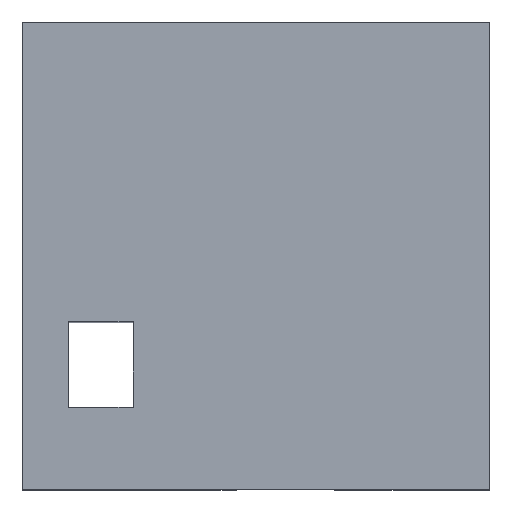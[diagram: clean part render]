
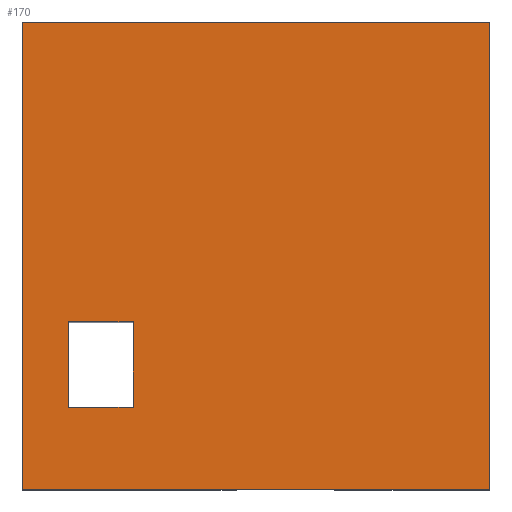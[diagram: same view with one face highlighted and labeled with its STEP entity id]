
A CAD part, top view. The second image highlights one B-rep face of the part: STEP entity #170.
In plain terms, the highlighted planar face has unit normal (0, 0, 1).
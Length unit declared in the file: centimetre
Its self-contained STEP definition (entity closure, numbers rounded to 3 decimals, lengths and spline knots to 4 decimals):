
#8 = VECTOR ( 'NONE', #466, 100. ) ;
#20 = DIRECTION ( 'NONE',  ( -1., 0., 0. ) ) ;
#21 = CARTESIAN_POINT ( 'NONE',  ( 237.1675, 358.1003, 1000. ) ) ;
#37 = ORIENTED_EDGE ( 'NONE', *, *, #371, .T. ) ;
#50 = CARTESIAN_POINT ( 'NONE',  ( 0., 0., 1000. ) ) ;
#53 = VECTOR ( 'NONE', #763, 100. ) ;
#60 = DIRECTION ( 'NONE',  ( 1., 0., 0. ) ) ;
#97 = ORIENTED_EDGE ( 'NONE', *, *, #441, .T. ) ;
#115 = CARTESIAN_POINT ( 'NONE',  ( 1000., 1000., 1000. ) ) ;
#143 = ORIENTED_EDGE ( 'NONE', *, *, #341, .T. ) ;
#165 = DIRECTION ( 'NONE',  ( 1., 0., 0. ) ) ;
#170 = ADVANCED_FACE ( 'NONE', ( #598, #301 ), #316, .T. ) ;
#177 = VECTOR ( 'NONE', #796, 100. ) ;
#182 = LINE ( 'NONE', #601, #8 ) ;
#196 = CARTESIAN_POINT ( 'NONE',  ( 1000., 0., 1000. ) ) ;
#199 = AXIS2_PLACEMENT_3D ( 'NONE', #524, #604, #165 ) ;
#225 = LINE ( 'NONE', #586, #486 ) ;
#227 = VECTOR ( 'NONE', #60, 100. ) ;
#229 = ORIENTED_EDGE ( 'NONE', *, *, #541, .T. ) ;
#271 = VECTOR ( 'NONE', #688, 100. ) ;
#289 = VERTEX_POINT ( 'NONE', #506 ) ;
#301 = FACE_OUTER_BOUND ( 'NONE', #928, .T. ) ;
#304 = VECTOR ( 'NONE', #902, 100. ) ;
#316 = PLANE ( 'NONE',  #199 ) ;
#341 = EDGE_CURVE ( 'NONE', #719, #463, #225, .T. ) ;
#371 = EDGE_CURVE ( 'NONE', #743, #289, #511, .T. ) ;
#391 = EDGE_CURVE ( 'NONE', #289, #450, #843, .T. ) ;
#403 = VERTEX_POINT ( 'NONE', #115 ) ;
#441 = EDGE_CURVE ( 'NONE', #500, #729, #615, .T. ) ;
#450 = VERTEX_POINT ( 'NONE', #196 ) ;
#463 = VERTEX_POINT ( 'NONE', #840 ) ;
#465 = EDGE_CURVE ( 'NONE', #403, #743, #553, .T. ) ;
#466 = DIRECTION ( 'NONE',  ( 0., 1., 0. ) ) ;
#481 = CARTESIAN_POINT ( 'NONE',  ( 237.1675, 175.7373, 1000. ) ) ;
#486 = VECTOR ( 'NONE', #523, 100. ) ;
#500 = VERTEX_POINT ( 'NONE', #21 ) ;
#506 = CARTESIAN_POINT ( 'NONE',  ( 0., 0., 1000. ) ) ;
#511 = LINE ( 'NONE', #875, #177 ) ;
#523 = DIRECTION ( 'NONE',  ( 0., 1., 0. ) ) ;
#524 = CARTESIAN_POINT ( 'NONE',  ( 0., 0., 1000. ) ) ;
#525 = LINE ( 'NONE', #741, #899 ) ;
#541 = EDGE_CURVE ( 'NONE', #450, #403, #182, .T. ) ;
#543 = CARTESIAN_POINT ( 'NONE',  ( 0., 1000., 1000. ) ) ;
#553 = LINE ( 'NONE', #543, #53 ) ;
#570 = ORIENTED_EDGE ( 'NONE', *, *, #706, .T. ) ;
#586 = CARTESIAN_POINT ( 'NONE',  ( 98.2169, 175.7373, 1000. ) ) ;
#598 = FACE_BOUND ( 'NONE', #607, .T. ) ;
#601 = CARTESIAN_POINT ( 'NONE',  ( 1000., 1000., 1000. ) ) ;
#602 = ORIENTED_EDGE ( 'NONE', *, *, #930, .T. ) ;
#604 = DIRECTION ( 'NONE',  ( 0., 0., 1. ) ) ;
#607 = EDGE_LOOP ( 'NONE', ( #143, #570, #97, #602 ) ) ;
#615 = LINE ( 'NONE', #760, #304 ) ;
#621 = CARTESIAN_POINT ( 'NONE',  ( 0., 1000., 1000. ) ) ;
#679 = ORIENTED_EDGE ( 'NONE', *, *, #391, .T. ) ;
#688 = DIRECTION ( 'NONE',  ( 1., 0., 0. ) ) ;
#698 = CARTESIAN_POINT ( 'NONE',  ( 98.2169, 358.1003, 1000. ) ) ;
#706 = EDGE_CURVE ( 'NONE', #463, #500, #915, .T. ) ;
#719 = VERTEX_POINT ( 'NONE', #846 ) ;
#729 = VERTEX_POINT ( 'NONE', #481 ) ;
#741 = CARTESIAN_POINT ( 'NONE',  ( 98.2169, 175.7373, 1000. ) ) ;
#743 = VERTEX_POINT ( 'NONE', #621 ) ;
#760 = CARTESIAN_POINT ( 'NONE',  ( 237.1675, 175.7373, 1000. ) ) ;
#763 = DIRECTION ( 'NONE',  ( -1., 0., 0. ) ) ;
#796 = DIRECTION ( 'NONE',  ( 0., -1., 0. ) ) ;
#840 = CARTESIAN_POINT ( 'NONE',  ( 98.2169, 358.1003, 1000. ) ) ;
#843 = LINE ( 'NONE', #50, #271 ) ;
#846 = CARTESIAN_POINT ( 'NONE',  ( 98.2169, 175.7373, 1000. ) ) ;
#875 = CARTESIAN_POINT ( 'NONE',  ( 0., 1000., 1000. ) ) ;
#885 = ORIENTED_EDGE ( 'NONE', *, *, #465, .T. ) ;
#899 = VECTOR ( 'NONE', #20, 100. ) ;
#902 = DIRECTION ( 'NONE',  ( 0., -1., 0. ) ) ;
#915 = LINE ( 'NONE', #698, #227 ) ;
#928 = EDGE_LOOP ( 'NONE', ( #37, #679, #229, #885 ) ) ;
#930 = EDGE_CURVE ( 'NONE', #729, #719, #525, .T. ) ;
